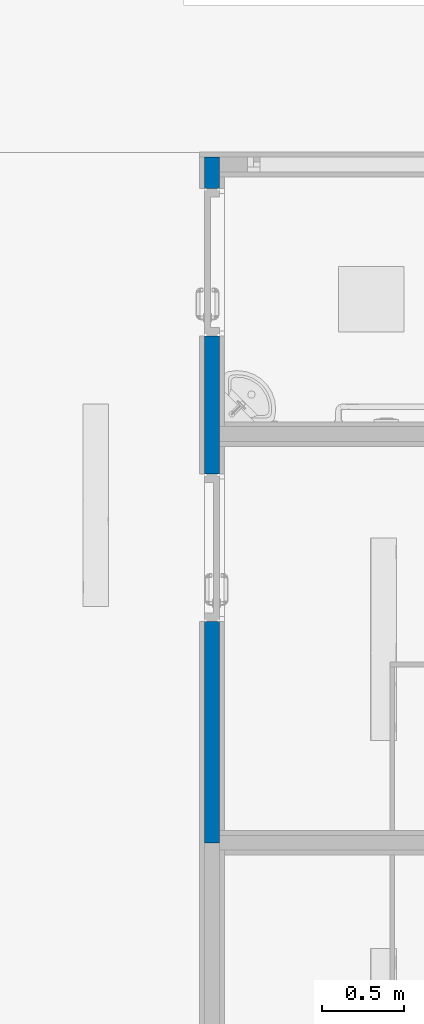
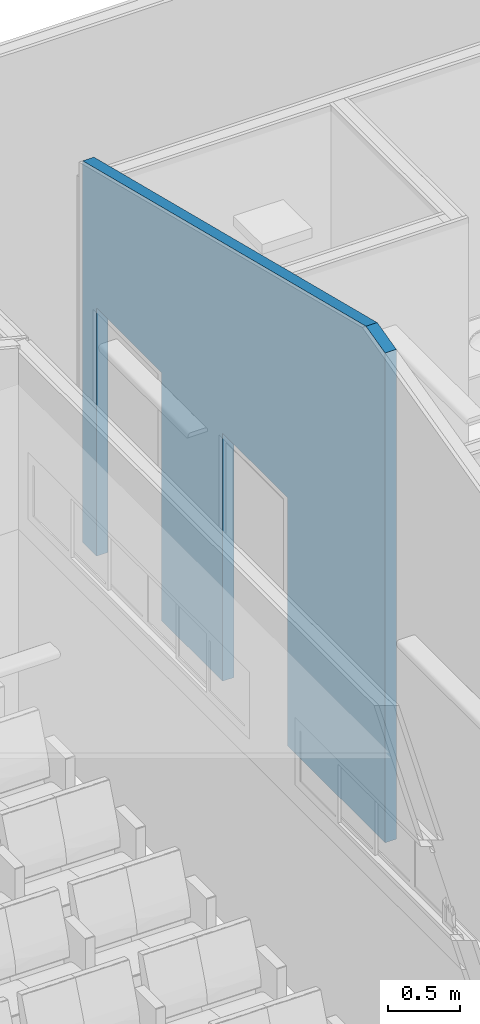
# One storey, part 32 of 155: 1 wall, 2 openings.
"""IFC2X3 building model written with IfcOpenShell, lengths in metres."""

from ifc_helpers import new_model, entity, si_unit, converted_unit, derived_unit, direction, frame, frame_2d, origin, place, context, subcontext, project, spatial, polyline, rectangle, extrude, clip, bounded_halfspace, material, layer, layer_set, layer_usage, type_object, element, save


model = new_model("IFC2X3")

# Units and contexts
model_context = context("Model", 3, precision=1e-05, world=origin(), true_north=direction((6.12303176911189e-17, 1.0)))
body_context = subcontext(model_context, "Body", "Model", "MODEL_VIEW")
ifc_project = project(units=[si_unit("LENGTHUNIT", "METRE"), si_unit("AREAUNIT", "SQUARE_METRE"), si_unit("VOLUMEUNIT", "CUBIC_METRE"), converted_unit("PLANEANGLEUNIT", "DEGREE", entity("IfcRatioMeasure", 0.0174532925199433), si_unit("PLANEANGLEUNIT", "RADIAN"), dimensions=[0, 0, 0, 0, 0, 0, 0]), si_unit("MASSUNIT", "GRAM", prefix="KILO"), derived_unit("MASSDENSITYUNIT", [(si_unit("MASSUNIT", "GRAM", prefix="KILO"), 1), (si_unit("LENGTHUNIT", "METRE"), -3)]), si_unit("TIMEUNIT", "SECOND"), si_unit("FREQUENCYUNIT", "HERTZ"), si_unit("THERMODYNAMICTEMPERATUREUNIT", "DEGREE_CELSIUS"), derived_unit("THERMALTRANSMITTANCEUNIT", [(si_unit("MASSUNIT", "GRAM", prefix="KILO"), 1), (si_unit("THERMODYNAMICTEMPERATUREUNIT", "KELVIN"), -1), (si_unit("TIMEUNIT", "SECOND"), -3)]), derived_unit("VOLUMETRICFLOWRATEUNIT", [(si_unit("LENGTHUNIT", "METRE"), 3), (si_unit("TIMEUNIT", "SECOND"), -1)]), si_unit("ELECTRICCURRENTUNIT", "AMPERE"), si_unit("ELECTRICVOLTAGEUNIT", "VOLT"), si_unit("POWERUNIT", "WATT"), si_unit("FORCEUNIT", "NEWTON", prefix="KILO"), si_unit("ILLUMINANCEUNIT", "LUX"), si_unit("LUMINOUSFLUXUNIT", "LUMEN"), si_unit("LUMINOUSINTENSITYUNIT", "CANDELA"), derived_unit("USERDEFINED", [(si_unit("MASSUNIT", "GRAM", prefix="KILO"), -1), (si_unit("LENGTHUNIT", "METRE"), -2), (si_unit("TIMEUNIT", "SECOND"), 3), (si_unit("LUMINOUSFLUXUNIT", "LUMEN"), 1)]), derived_unit("LINEARVELOCITYUNIT", [(si_unit("LENGTHUNIT", "METRE"), 1), (si_unit("TIMEUNIT", "SECOND"), -1)]), si_unit("PRESSUREUNIT", "PASCAL"), derived_unit("USERDEFINED", [(si_unit("LENGTHUNIT", "METRE"), -2), (si_unit("MASSUNIT", "GRAM", prefix="KILO"), 1), (si_unit("TIMEUNIT", "SECOND"), -2)])], contexts=[model_context])

# Site, building, storey
site_placement = place(None, frame((26.9889013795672, -17.5624287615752, 0.0)))
site = spatial("IfcSite", under=ifc_project, at=site_placement, Name="Default", CompositionType="ELEMENT")
building_placement = place(site_placement, origin())
building = spatial("IfcBuilding", under=site, at=building_placement, Name="C. C. L. Monsenhor Antônio Sampaio", CompositionType="ELEMENT")
storey_placement = place(building_placement, frame((0.0, 0.0, 1.19999999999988)))
storey = spatial("IfcBuildingStorey", under=building, at=storey_placement, Name="Nível 1.2", CompositionType="ELEMENT", Elevation=1.19999999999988)

# Wall, openings
ifc_material = material(Name="ALVENARIA")
ifc_layer = layer(ifc_material, 0.09)
ifc_layer_set = layer_set([ifc_layer], Name="Parede básica:ENucleo parede 15cm")
ifc_layer_usage = layer_usage(ifc_layer_set, "AXIS2", "NEGATIVE", 0.045)
wall_type = type_object("IfcWallType", Name="Parede básica:ENucleo parede 15cm", PredefinedType="STANDARD", material=ifc_layer_set)
wall_placement = place(storey_placement, frame((-4.49555229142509, -12.6780663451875, 0.0), z_axis=(0.0, 0.0, 1.0), x_axis=(0.0, 1.0, 0.0)))
wall = element("IfcWallStandardCase", 1, at=wall_placement, inside=storey, type_object=wall_type, material=ifc_layer_usage, Name="Parede básica:ENucleo parede 15cm", ObjectType="Parede básica:ENucleo parede 15cm", context=body_context, shape_type="Clipping", body=[
    clip(clip(extrude(rectangle(XDim=4.19367398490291, YDim=0.0900000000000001, at=frame_2d((2.09683699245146, 1.07552855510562e-16), x_axis=(-1.0, 0.0))), origin(), (0.0, 0.0, 1.0), 4.21182764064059), bounded_halfspace(frame((4.19367398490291, -0.0449999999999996, 3.22965914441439), z_axis=(0.242535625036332, 0.0, 0.970142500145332), x_axis=(0.0, 1.0, 0.0)), False, frame((4.19367398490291, -0.0449999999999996, 3.22965914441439)), polyline([(0.0, 0.0), (0.0, 0.0900000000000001), (-3.9286739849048, 0.0899999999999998), (-3.9286739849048, 0.0), (0.0, 0.0)]))), bounded_halfspace(frame((0.0, 0.0450000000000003, 4.14557764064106), z_axis=(-0.242535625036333, 0.0, 0.970142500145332), x_axis=(0.0, -1.0, 0.0)), False, frame((0.0, 0.0450000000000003, 4.14557764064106)), polyline([(0.0, 0.0), (0.0, -0.0900000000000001), (0.264999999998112, -0.0900000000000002), (0.264999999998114, 0.0), (0.0, 0.0)]))),
])
opening_1_placement = place(wall_placement, frame((2.25500000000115, 0.0449999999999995, 0.0)))
element("IfcOpeningElement", 2, at=opening_1_placement, cuts=wall, Name="Porta levantamento:90 x 211 AZUL:1", ObjectType="Opening", context=body_context, shape_type="SweptSolid", body=[
    extrude(rectangle(XDim=2.09999999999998, YDim=0.9, at=frame_2d((1.04999999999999, 0.45), x_axis=(1.0, 0.0))), frame((0.0, 0.0, 0.0), z_axis=(0.0, -1.0, 0.0), x_axis=(0.0, 0.0, 1.0)), (0.0, 0.0, 1.0), 0.09),
])
opening_2_placement = place(wall_placement, frame((3.10117398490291, -0.0449999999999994, 0.0)))
element("IfcOpeningElement", 3, at=opening_2_placement, cuts=wall, Name="Porta levantamento:90 x 211 AZUL:1", ObjectType="Opening", context=body_context, shape_type="SweptSolid", body=[
    extrude(rectangle(XDim=2.09999999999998, YDim=0.9, at=frame_2d((1.04999999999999, 0.45), x_axis=(1.0, 0.0))), frame((0.0, 0.0, 0.0), z_axis=(0.0, 1.0, 0.0), x_axis=(0.0, 0.0, 1.0)), (0.0, 0.0, 1.0), 0.09),
])

save(model, "model.ifc")
